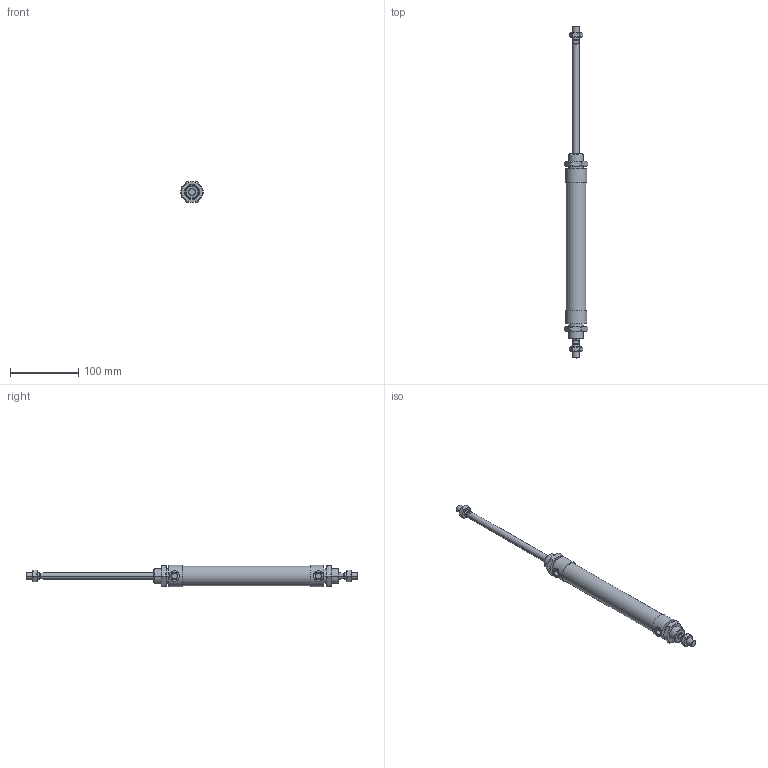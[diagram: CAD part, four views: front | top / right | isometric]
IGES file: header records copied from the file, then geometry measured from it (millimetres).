
Global section: file name: No Iges File Name specified; native system: AutoDesk Inventor R10; preprocessor: AutoDesk Inventor Iges Exporter R10; author: No Author specified; organization: No Organization specified; date: 20060105.143636; units: millimetre
Bounding box: 34.64 x 488 x 31.5 mm (x, y, z)
Volume: 196263.9 mm3; surface area: 55983.6 mm2
Topology: 6 solids, 6 shells, 185 faces, 397 edges, 232 vertices
Faces by surface type: cone 68, plane 62, cylinder 21, bspline 20, revolution 14
Full cylindrical faces by diameter (mm): 29 x1, 31.5 x2
